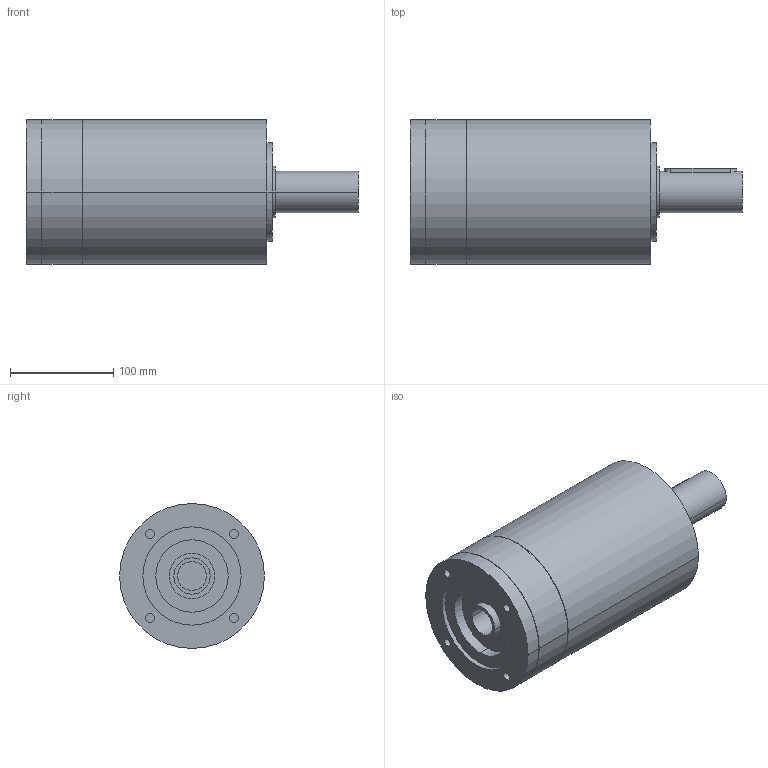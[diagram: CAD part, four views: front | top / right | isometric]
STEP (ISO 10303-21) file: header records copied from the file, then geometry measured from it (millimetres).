
FILE_DESCRIPTION(('CoCreate Modeling STEP Export'),'2;1');
FILE_NAME('GPR150_ig-9-12-16-20-28-35_40_B14_28_P03.stp','2014-08-19T17:03:45',(''),(''),'CoCreate Modeling STEP processor for AP214 (Solid Model)','CoCreate Modeling 16.00C 25-Feb-2009 (C) Parametric Technology GmbH','');
FILE_SCHEMA(('AUTOMOTIVE_DESIGN { 1 0 10303 214 1 1 1 1 }'));
Length unit declared in the file: millimetre
Products named in the file (2): GPR150_ig-9-12-16-20-28-35_40_B14_28_P03
Assembly tree (1 placements, depth 2):
  GPR150_ig-9-12-16-20-28-35_40_B14_28_P03
    GPR150_ig-9-12-16-20-28-35_40_B14_28_P03
Bounding box: 321 x 140 x 140 mm (x, y, z)
Volume: 3598486.1 mm3; surface area: 165397.2 mm2
Topology: 1 solids, 1 shells, 83 faces, 205 edges, 145 vertices
Faces by surface type: cylinder 50, plane 27, cone 6
Entity records: 2100 total; most frequent: ORIENTED_EDGE 406, CARTESIAN_POINT 400, DIRECTION 272, EDGE_CURVE 203, VERTEX_POINT 145, EDGE_LOOP 106, AXIS2_PLACEMENT_3D 105, FACE_OUTER_BOUND 83
